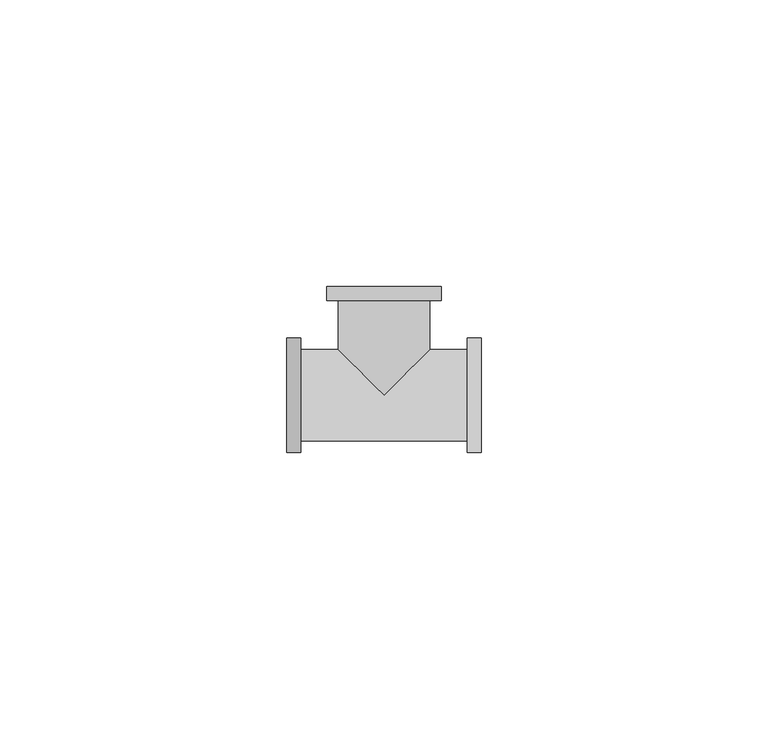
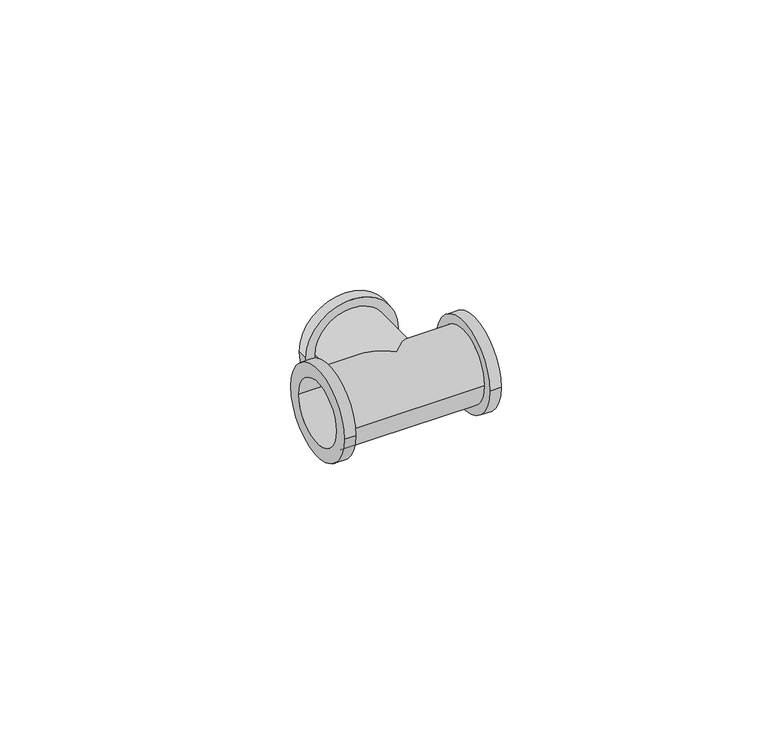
"""IFC4 building model written with IfcOpenShell, lengths in millimetres: pipe fitting geometry, БИР ПЕКС_НПР_Тройник ПЕКС : Тройник ПЕКС_НПР."""

from ifc_helpers import new_model, si_unit, frame, origin, place, context, project, spatial, polyline, circle_curve, ellipse_curve, source, transform, mapped, element, save
from ifc_brep_helpers import plane_surface, cylinder_surface, revolved_surface, advanced_brep


def pipe_fitting_b30451f9(model_context):
    return source(origin(), model_context, "Body", "AdvancedBrep", [
        advanced_brep(
        [(-10.0, 19.0, 0.0), (10.0, 19.0, 0.0), (-7.0, 19.0, 0.0), (7.0, 19.0, 0.0), (8.0, 8.0, 0.0), (0.0, 0.0, -8.0), (-8.0, 8.0, 0.0), (-8.0, 16.5, 0.0), (8.0, 16.5, 0.0), (0.0, 0.0, 8.0), (17.0, -10.0, 0.0), (17.0, 10.0, 0.0), (17.0, 7.0, 0.0), (17.0, -7.0, 0.0), (-17.0, -10.0, 0.0), (-17.0, 10.0, 0.0), (-17.0, -7.0, 0.0), (-17.0, 7.0, 0.0), (14.5, 8.0, 0.0), (14.5, -8.0, 0.0), (-14.5, -8.0, 0.0), (-14.5, 8.0, 0.0), (-10.0, 16.5, 0.0), (10.0, 16.5, 0.0), (-14.5, -10.0, 0.0), (-14.5, 10.0, 0.0), (14.5, -10.0, 0.0), (14.5, 10.0, 0.0), (7.0, 7.0, 0.0), (0.0, 0.0, -7.0), (-7.0, 7.0, 0.0), (0.0, 0.0, 7.0)],
        [
            (0, 1, circle_curve(frame((0.0, 19.0, 0.0), z_axis=(0.0, 1.0, 0.0), x_axis=(1.0, 0.0, 0.0)), 10.0)),
            (1, 0, circle_curve(frame((0.0, 19.0, 0.0), z_axis=(0.0, 1.0, 0.0), x_axis=(1.0, 0.0, 0.0)), 10.0)),
            (2, 3, circle_curve(frame((0.0, 19.0, 0.0), z_axis=(0.0, -1.0, 0.0), x_axis=(1.0, 0.0, 0.0)), 7.0)),
            (3, 2, circle_curve(frame((0.0, 19.0, 0.0), z_axis=(0.0, -1.0, 0.0), x_axis=(1.0, 0.0, 0.0)), 7.0)),
            (4, 5, ellipse_curve(frame((0.0, 0.0, 0.0), z_axis=(-0.7071067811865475, 0.7071067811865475, 0.0), x_axis=(-0.7071067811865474, -0.7071067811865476, 0.0)), 11.3137085, 8.0)),
            (5, 6, ellipse_curve(frame((0.0, 0.0, 0.0), z_axis=(0.7071067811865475, 0.7071067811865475, 0.0), x_axis=(0.7071067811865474, -0.7071067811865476, 0.0)), 11.3137085, 8.0)),
            (6, 7),
            (7, 8, circle_curve(frame((0.0, 16.5, 0.0), z_axis=(0.0, -1.0, 0.0), x_axis=(1.0, 0.0, 0.0)), 8.0)),
            (8, 4),
            (9, 4, ellipse_curve(frame((0.0, 0.0, 0.0), z_axis=(-0.7071067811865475, 0.7071067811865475, 0.0), x_axis=(-0.7071067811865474, -0.7071067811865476, 0.0)), 11.3137085, 8.0)),
            (8, 7, circle_curve(frame((0.0, 16.5, 0.0), z_axis=(0.0, -1.0, 0.0), x_axis=(1.0, 0.0, 0.0)), 8.0)),
            (6, 9, ellipse_curve(frame((0.0, 0.0, 0.0), z_axis=(0.7071067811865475, 0.7071067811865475, 0.0), x_axis=(0.7071067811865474, -0.7071067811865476, 0.0)), 11.3137085, 8.0)),
            (10, 11, circle_curve(frame((17.0, 0.0, 0.0), z_axis=(1.0, 0.0, 0.0), x_axis=(0.0, 1.0, 0.0)), 10.0)),
            (11, 10, circle_curve(frame((17.0, 0.0, 0.0), z_axis=(1.0, 0.0, 0.0), x_axis=(0.0, 1.0, 0.0)), 10.0)),
            (12, 13, circle_curve(frame((17.0, 0.0, 0.0), z_axis=(-1.0, 0.0, 0.0), x_axis=(0.0, 1.0, 0.0)), 7.0)),
            (13, 12, circle_curve(frame((17.0, 0.0, 0.0), z_axis=(-1.0, 0.0, 0.0), x_axis=(0.0, 1.0, 0.0)), 7.0)),
            (14, 15, circle_curve(frame((-17.0, 0.0, 0.0), z_axis=(-1.0, 0.0, 0.0), x_axis=(0.0, 1.0, 0.0)), 10.0)),
            (15, 14, circle_curve(frame((-17.0, 0.0, 0.0), z_axis=(-1.0, 0.0, 0.0), x_axis=(0.0, 1.0, 0.0)), 10.0)),
            (16, 17, circle_curve(frame((-17.0, 0.0, 0.0), z_axis=(1.0, 0.0, 0.0), x_axis=(0.0, 1.0, 0.0)), 7.0)),
            (17, 16, circle_curve(frame((-17.0, 0.0, 0.0), z_axis=(1.0, 0.0, 0.0), x_axis=(0.0, 1.0, 0.0)), 7.0)),
            (4, 18),
            (18, 19, circle_curve(frame((14.5, 0.0, 0.0), z_axis=(-1.0, 0.0, 0.0), x_axis=(0.0, 1.0, 0.0)), 8.0)),
            (19, 20),
            (20, 21, circle_curve(frame((-14.5, 0.0, 0.0), z_axis=(1.0, 0.0, 0.0), x_axis=(0.0, 1.0, 0.0)), 8.0)),
            (21, 6),
            (21, 20, circle_curve(frame((-14.5, 0.0, 0.0), z_axis=(1.0, 0.0, 0.0), x_axis=(0.0, 1.0, 0.0)), 8.0)),
            (19, 18, circle_curve(frame((14.5, 0.0, 0.0), z_axis=(-1.0, 0.0, 0.0), x_axis=(0.0, 1.0, 0.0)), 8.0)),
            (22, 23, circle_curve(frame((0.0, 16.5, 0.0), z_axis=(0.0, -1.0, 0.0), x_axis=(1.0, 0.0, 0.0)), 10.0)),
            (23, 22, circle_curve(frame((0.0, 16.5, 0.0), z_axis=(0.0, -1.0, 0.0), x_axis=(1.0, 0.0, 0.0)), 10.0)),
            (22, 0),
            (1, 23),
            (24, 25, circle_curve(frame((-14.5, 0.0, 0.0), z_axis=(1.0, 0.0, 0.0), x_axis=(0.0, 1.0, 0.0)), 10.0)),
            (25, 24, circle_curve(frame((-14.5, 0.0, 0.0), z_axis=(1.0, 0.0, 0.0), x_axis=(0.0, 1.0, 0.0)), 10.0)),
            (15, 25),
            (24, 14),
            (26, 27, circle_curve(frame((14.5, 0.0, 0.0), z_axis=(-1.0, 0.0, 0.0), x_axis=(0.0, 1.0, 0.0)), 10.0)),
            (27, 26, circle_curve(frame((14.5, 0.0, 0.0), z_axis=(-1.0, 0.0, 0.0), x_axis=(0.0, 1.0, 0.0)), 10.0)),
            (10, 26),
            (27, 11),
            (16, 13),
            (12, 28),
            (28, 29, ellipse_curve(frame((0.0, 0.0, 0.0), z_axis=(-0.7071067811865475, 0.7071067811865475, 0.0), x_axis=(0.7071067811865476, 0.7071067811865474, 0.0)), 9.8994949, 7.0)),
            (29, 30, ellipse_curve(frame((0.0, 0.0, 0.0), z_axis=(0.7071067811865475, 0.7071067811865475, 0.0), x_axis=(0.7071067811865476, -0.7071067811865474, 0.0)), 9.8994949, 7.0)),
            (30, 17),
            (30, 31, ellipse_curve(frame((0.0, 0.0, 0.0), z_axis=(0.7071067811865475, 0.7071067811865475, 0.0), x_axis=(0.7071067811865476, -0.7071067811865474, 0.0)), 9.8994949, 7.0)),
            (31, 28, ellipse_curve(frame((0.0, 0.0, 0.0), z_axis=(-0.7071067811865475, 0.7071067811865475, 0.0), x_axis=(0.7071067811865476, 0.7071067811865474, 0.0)), 9.8994949, 7.0)),
            (2, 30),
            (28, 3),
        ],
        [
            plane_surface(frame((8.0, 19.0, 0.0), z_axis=(0.0, 1.0, 0.0), x_axis=(0.0, 0.0, -1.0))),
            cylinder_surface(frame((0.0, 19.0, 0.0), z_axis=(0.0, -1.0, 0.0), x_axis=(1.0, 0.0, 0.0)), 8.0),
            plane_surface(frame((17.0, 8.0, 0.0), z_axis=(1.0, 0.0, 0.0), x_axis=(0.0, 0.0, 1.0))),
            plane_surface(frame((-17.0, 8.0, 0.0), z_axis=(-1.0, 0.0, 0.0), x_axis=(0.0, 0.0, -1.0))),
            cylinder_surface(frame((-17.0, 0.0, 0.0), z_axis=(1.0, 0.0, 0.0), x_axis=(0.0, 1.0, 0.0)), 8.0),
            plane_surface(frame((10.0, 16.5, 0.0), z_axis=(0.0, -1.0, 0.0), x_axis=(0.0, 0.0, 1.0))),
            cylinder_surface(frame((0.0, 19.0, 0.0), z_axis=(0.0, -1.0, 0.0), x_axis=(1.0, 0.0, 0.0)), 10.0),
            plane_surface(frame((-14.5, 10.0, 0.0), z_axis=(1.0, 0.0, 0.0), x_axis=(0.0, 0.0, 1.0))),
            cylinder_surface(frame((-14.5, 0.0, 0.0), z_axis=(-1.0, 0.0, 0.0), x_axis=(0.0, 1.0, 0.0)), 10.0),
            plane_surface(frame((14.5, 10.0, 0.0), z_axis=(-1.0, 0.0, 0.0), x_axis=(0.0, 0.0, -1.0))),
            cylinder_surface(frame((14.5, 0.0, 0.0), z_axis=(1.0, 0.0, 0.0), x_axis=(0.0, 1.0, 0.0)), 10.0),
            revolved_surface(polyline([(17.0, 7.0, 0.0), (-17.0, 7.0, 0.0)]), (-17.0, 0.0, 0.0), (1.0, 0.0, 0.0)),
            revolved_surface(polyline([(7.0, -6.999999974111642, 0.0), (7.0, 19.0, 0.0)]), (0.0, 19.0, 0.0), (0.0, -1.0, 0.0)),
        ],
        [
            (0, [[1, 2], [3, 4]]),
            (1, [[5, 6, 7, 8, 9]]),
            (1, [[10, -9, 11, -7, 12]]),
            (2, [[13, 14], [15, 16]]),
            (3, [[17, 18], [19, 20]]),
            (4, [[-5, 21, 22, 23, 24, 25, -6]]),
            (4, [[-10, -12, -25, 26, -23, 27, -21]]),
            (5, [[28, 29], [-8, -11]]),
            (6, [[-28, 30, -2, 31]]),
            (6, [[-29, -31, -1, -30]]),
            (7, [[32, 33], [-24, -26]]),
            (8, [[-18, 34, -32, 35]]),
            (8, [[-17, -35, -33, -34]]),
            (9, [[36, 37], [-22, -27]]),
            (10, [[-13, 38, -37, 39]]),
            (10, [[-14, -39, -36, -38]]),
            (11, [[40, -15, 41, 42, 43, 44, -19]]),
            (11, [[-40, -20, -44, 45, 46, -41, -16]]),
            (12, [[47, -43, -42, 48, -3]]),
            (12, [[-47, -4, -48, -46, -45]]),
        ],
    ),
    ])


if __name__ == "__main__":
    model = new_model("IFC4")
    model_context = context("Model", 3, world=origin())
    ifc_project = project(units=[si_unit("LENGTHUNIT", "METRE", prefix="MILLI")], contexts=[model_context])
    site = spatial("IfcSite", under=ifc_project)
    building = spatial("IfcBuilding", under=site)
    placement = place(None, origin())
    pipe_fitting_shape = pipe_fitting_b30451f9(model_context)
    element("IfcPipeFitting", 1, ObjectType="БИР ПЕКС_НПР_Тройник ПЕКС : Тройник ПЕКС_НПР", at=placement, inside=building, context=model_context, shape_type="MappedRepresentation", body=[
        mapped(pipe_fitting_shape, transform((0.0, 0.0, 0.0), x_axis=(1.0, 0.0, 0.0), y_axis=(0.0, 1.0, 0.0), z_axis=(0.0, 0.0, 1.0))),
    ])
    save(model, "model.ifc")
